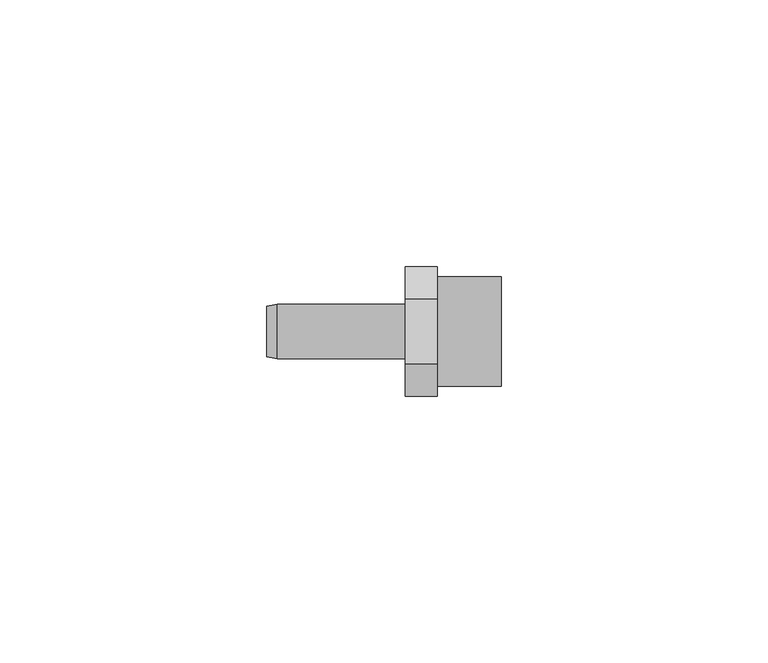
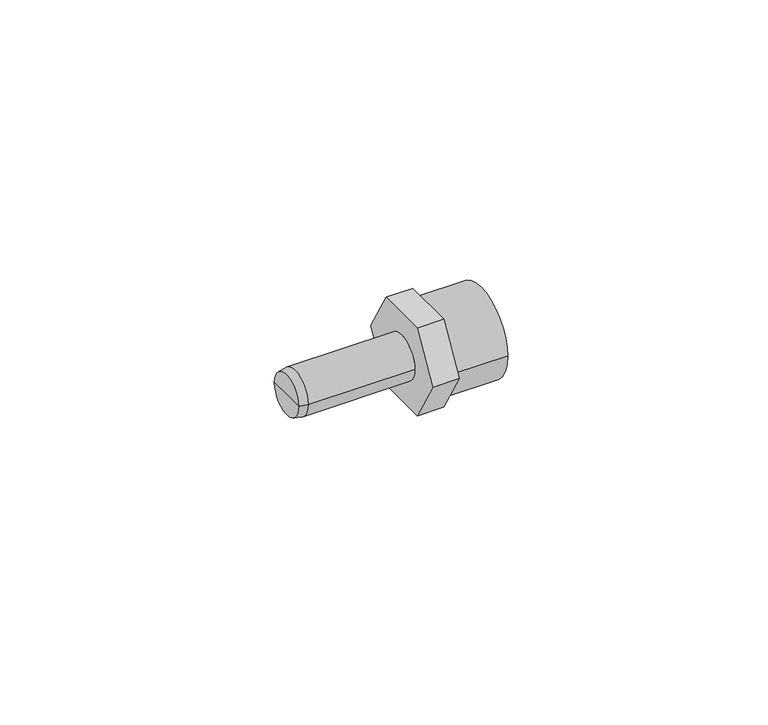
"""IFC4 building model written with IfcOpenShell, lengths in millimetres: pipe fitting geometry, Astra Gás - Conector Macho Espigão - GE : Astra Gás - Conector Macho Espigão - GE."""

from ifc_helpers import new_model, si_unit, frame, origin, place, context, project, spatial, polyline, circle_curve, source, transform, mapped, element, save
from ifc_brep_helpers import plane_surface, cylinder_surface, revolved_surface, advanced_brep


def pipe_fitting_51212b87(model_context):
    return source(origin(), model_context, "Body", "AdvancedBrep", [
        advanced_brep(
        [(-26.0, 0.0, 0.0), (-26.0, 4.75, 0.0), (-26.0, -4.75, 0.0), (-24.0, -5.125, 0.0), (-24.0, 5.125, 0.0), (0.0, 5.125, 0.0), (0.0, -5.125, 0.0), (6.0, -12.1243557, 0.0), (6.0, -6.0621778, -10.5), (6.0, 6.0621778, -10.5), (6.0, 12.1243557, 0.0), (6.0, 6.0621778, 10.5), (6.0, -6.0621778, 10.5), (6.0, 10.25, 0.0), (6.0, -10.25, 0.0), (6.0, -7.5, 0.0), (6.0, 7.5, 0.0), (0.0, -12.1243557, 0.0), (0.0, -6.0621778, 10.5), (0.0, 6.0621778, 10.5), (0.0, 12.1243557, 0.0), (0.0, 6.0621778, -10.5), (0.0, -6.0621778, -10.5), (18.0, 10.25, 0.0), (18.0, -10.25, 0.0), (18.0, -7.5, 0.0), (18.0, 7.5, 0.0)],
        [
            (0, 1),
            (1, 2, circle_curve(frame((-26.0, 0.0, 0.0), z_axis=(-1.0, 0.0, 0.0), x_axis=(0.0, 1.0, 0.0)), 4.75)),
            (2, 0),
            (2, 1, circle_curve(frame((-26.0, 0.0, 0.0), z_axis=(-1.0, 0.0, 0.0), x_axis=(0.0, 1.0, 0.0)), 4.75)),
            (3, 4, circle_curve(frame((-24.0, 0.0, 0.0), z_axis=(1.0, 0.0, 0.0), x_axis=(0.0, 1.0, 0.0)), 5.125)),
            (4, 5),
            (5, 6, circle_curve(frame((0.0, 0.0, 0.0), z_axis=(-1.0, 0.0, 0.0), x_axis=(0.0, 1.0, 0.0)), 5.125)),
            (6, 3),
            (4, 3, circle_curve(frame((-24.0, 0.0, 0.0), z_axis=(1.0, 0.0, 0.0), x_axis=(0.0, 1.0, 0.0)), 5.125)),
            (6, 5, circle_curve(frame((0.0, 0.0, 0.0), z_axis=(-1.0, 0.0, 0.0), x_axis=(0.0, 1.0, 0.0)), 5.125)),
            (1, 4),
            (3, 2),
            (7, 8),
            (8, 9),
            (9, 10),
            (10, 11),
            (11, 12),
            (12, 7),
            (13, 14, circle_curve(frame((6.0, 0.0, 0.0), z_axis=(-1.0, 0.0, 0.0), x_axis=(0.0, 1.0, 0.0)), 10.25)),
            (14, 13, circle_curve(frame((6.0, 0.0, 0.0), z_axis=(-1.0, 0.0, 0.0), x_axis=(0.0, 1.0, 0.0)), 10.25)),
            (15, 16, circle_curve(frame((6.0, 0.0, 0.0), z_axis=(1.0, 0.0, 0.0), x_axis=(0.0, 1.0, 0.0)), 7.5)),
            (16, 15, circle_curve(frame((6.0, 0.0, 0.0), z_axis=(1.0, 0.0, 0.0), x_axis=(0.0, 1.0, 0.0)), 7.5)),
            (17, 18),
            (18, 19),
            (19, 20),
            (20, 21),
            (21, 22),
            (22, 17),
            (7, 17),
            (22, 8),
            (21, 9),
            (20, 10),
            (19, 11),
            (18, 12),
            (13, 23),
            (23, 24, circle_curve(frame((18.0, 0.0, 0.0), z_axis=(-1.0, 0.0, 0.0), x_axis=(0.0, 1.0, 0.0)), 10.25)),
            (24, 14),
            (24, 23, circle_curve(frame((18.0, 0.0, 0.0), z_axis=(-1.0, 0.0, 0.0), x_axis=(0.0, 1.0, 0.0)), 10.25)),
            (25, 26, circle_curve(frame((18.0, 0.0, 0.0), z_axis=(1.0, 0.0, 0.0), x_axis=(0.0, 1.0, 0.0)), 7.5)),
            (26, 16),
            (15, 25),
            (26, 25, circle_curve(frame((18.0, 0.0, 0.0), z_axis=(1.0, 0.0, 0.0), x_axis=(0.0, 1.0, 0.0)), 7.5)),
            (23, 26),
            (25, 24),
        ],
        [
            plane_surface(frame((-26.0, 0.0, 0.0), z_axis=(-1.0, 0.0, 0.0), x_axis=(0.0, 1.0, 0.0))),
            cylinder_surface(frame((-26.0, 0.0, 0.0), z_axis=(-1.0, 0.0, 0.0), x_axis=(0.0, 1.0, 0.0)), 5.125),
            revolved_surface(polyline([(-24.0, 5.125, 0.0), (-26.0, 4.75, 0.0)]), (-26.0, 0.0, 0.0), (-1.0, 0.0, 0.0)),
            plane_surface(frame((6.0, -12.1243557, 0.0), z_axis=(1.0000000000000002, 0.0, 0.0), x_axis=(0.0, 0.49999999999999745, -0.8660254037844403))),
            plane_surface(frame((0.0, -12.1243557, 0.0), z_axis=(-1.0000000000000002, 0.0, 0.0), x_axis=(0.0, -0.49999999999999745, 0.8660254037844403))),
            plane_surface(frame((6.0, -12.1243557, 0.0), z_axis=(0.0, -0.8660254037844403, -0.49999999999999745), x_axis=(-1.0, 0.0, 0.0))),
            plane_surface(frame((6.0, -6.0621778, -10.5), z_axis=(0.0, 0.0, -1.0), x_axis=(-1.0, 0.0, 0.0))),
            plane_surface(frame((6.0, 6.0621778, -10.5), z_axis=(0.0, 0.8660254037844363, -0.5000000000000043), x_axis=(-1.0, 0.0, 0.0))),
            plane_surface(frame((6.0, 12.1243557, 0.0), z_axis=(0.0, 0.8660254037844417, 0.49999999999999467), x_axis=(-1.0, 0.0, 0.0))),
            plane_surface(frame((6.0, 6.0621778, 10.5), z_axis=(0.0, 0.0, 1.0), x_axis=(-1.0, 0.0, 0.0))),
            plane_surface(frame((6.0, -6.0621778, 10.5), z_axis=(0.0, -0.8660254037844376, 0.500000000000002), x_axis=(-1.0, 0.0, 0.0))),
            cylinder_surface(frame((6.0, 0.0, 0.0), z_axis=(-1.0, 0.0, 0.0), x_axis=(0.0, 1.0, 0.0)), 10.25),
            revolved_surface(polyline([(6.0, 7.5, 0.0), (18.0, 7.5, 0.0)]), (6.0, 0.0, 0.0), (-1.0, 0.0, 0.0)),
            plane_surface(frame((18.0, 0.0, 0.0), z_axis=(1.0, 0.0, 0.0), x_axis=(0.0, 1.0, 0.0))),
        ],
        [
            (0, [[1, 2, 3]]),
            (0, [[-1, -3, 4]]),
            (1, [[5, 6, 7, 8]]),
            (1, [[-6, 9, -8, 10]]),
            (2, [[-2, 11, -5, 12]]),
            (2, [[-4, -12, -9, -11]]),
            (3, [[13, 14, 15, 16, 17, 18], [19, 20]]),
            (3, [[21, 22]]),
            (4, [[23, 24, 25, 26, 27, 28], [-7, -10]]),
            (5, [[-13, 29, -28, 30]]),
            (6, [[-14, -30, -27, 31]]),
            (7, [[-15, -31, -26, 32]]),
            (8, [[-16, -32, -25, 33]]),
            (9, [[-17, -33, -24, 34]]),
            (10, [[-18, -34, -23, -29]]),
            (11, [[35, 36, 37, -19]]),
            (11, [[-35, -20, -37, 38]]),
            (12, [[39, 40, -21, 41]]),
            (12, [[-40, 42, -41, -22]]),
            (13, [[-36, 43, -39, 44]]),
            (13, [[-38, -44, -42, -43]]),
        ],
    ),
    ])


if __name__ == "__main__":
    model = new_model("IFC4")
    model_context = context("Model", 3, world=origin())
    ifc_project = project(units=[si_unit("LENGTHUNIT", "METRE", prefix="MILLI")], contexts=[model_context])
    site = spatial("IfcSite", under=ifc_project)
    building = spatial("IfcBuilding", under=site)
    placement = place(None, origin())
    pipe_fitting_shape = pipe_fitting_51212b87(model_context)
    element("IfcPipeFitting", 1, ObjectType="Astra Gás - Conector Macho Espigão - GE : Astra Gás - Conector Macho Espigão - GE", at=placement, inside=building, context=model_context, shape_type="MappedRepresentation", body=[
        mapped(pipe_fitting_shape, transform((0.0, 0.0, 0.0), x_axis=(1.0, 0.0, 0.0), y_axis=(0.0, 1.0, 0.0), z_axis=(0.0, 0.0, 1.0))),
    ])
    save(model, "model.ifc")
